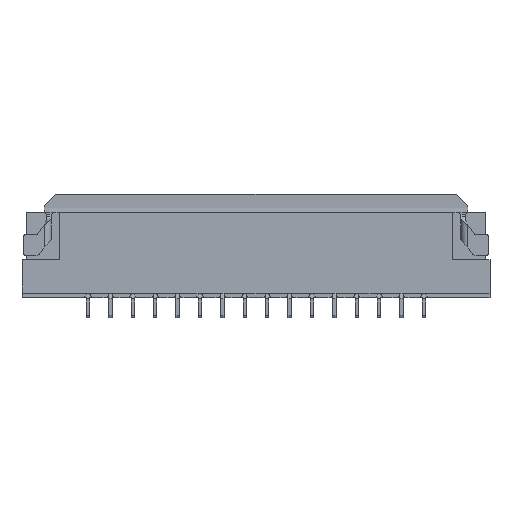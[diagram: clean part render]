
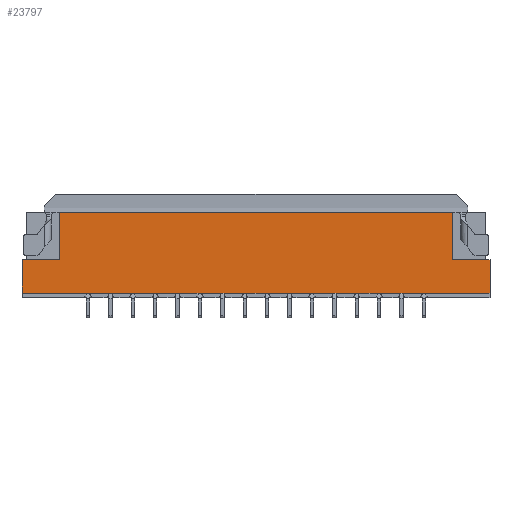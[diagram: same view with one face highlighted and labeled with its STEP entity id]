
A CAD part, front view. The second image highlights one B-rep face of the part: STEP entity #23797.
In plain terms, the highlighted planar face has unit normal (0, -1, 0).
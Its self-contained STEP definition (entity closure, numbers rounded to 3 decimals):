
#915=DIRECTION('',(-1.,0.,0.));
#916=VECTOR('',#915,17.57);
#917=CARTESIAN_POINT('',(15.285,-0.875,1.95));
#918=LINE('',#917,#916);
#1015=DIRECTION('',(1.,0.,0.));
#1016=VECTOR('',#1015,20.9);
#1017=CARTESIAN_POINT('',(-3.95,-0.875,-1.65));
#1018=LINE('',#1017,#1016);
#8200=DIRECTION('',(0.,0.,1.));
#8201=VECTOR('',#8200,1.5);
#8202=CARTESIAN_POINT('',(-3.95,-0.875,-1.65));
#8203=LINE('',#8202,#8201);
#8424=DIRECTION('',(1.,0.,0.));
#8425=VECTOR('',#8424,1.665);
#8426=CARTESIAN_POINT('',(-3.95,-0.875,-0.15));
#8427=LINE('',#8426,#8425);
#8436=DIRECTION('',(0.,0.,1.));
#8437=VECTOR('',#8436,2.1);
#8438=CARTESIAN_POINT('',(-2.285,-0.875,-0.15));
#8439=LINE('',#8438,#8437);
#8448=DIRECTION('',(0.,0.,1.));
#8449=VECTOR('',#8448,1.5);
#8450=CARTESIAN_POINT('',(16.95,-0.875,-1.65));
#8451=LINE('',#8450,#8449);
#8476=DIRECTION('',(-1.,0.,0.));
#8477=VECTOR('',#8476,1.665);
#8478=CARTESIAN_POINT('',(16.95,-0.875,-0.15));
#8479=LINE('',#8478,#8477);
#16703=DIRECTION('',(0.,0.,1.));
#16704=VECTOR('',#16703,2.1);
#16705=CARTESIAN_POINT('',(15.285,-0.875,-0.15));
#16706=LINE('',#16705,#16704);
#17007=CARTESIAN_POINT('',(15.285,-0.875,-0.15));
#17008=CARTESIAN_POINT('',(15.285,-0.875,1.95));
#17009=VERTEX_POINT('',#17007);
#17010=VERTEX_POINT('',#17008);
#17011=CARTESIAN_POINT('',(16.95,-0.875,-1.65));
#17012=CARTESIAN_POINT('',(16.95,-0.875,-0.15));
#17013=VERTEX_POINT('',#17011);
#17014=VERTEX_POINT('',#17012);
#19747=CARTESIAN_POINT('',(-2.285,-0.875,-0.15));
#19748=CARTESIAN_POINT('',(-2.285,-0.875,1.95));
#19749=VERTEX_POINT('',#19747);
#19750=VERTEX_POINT('',#19748);
#19751=CARTESIAN_POINT('',(-3.95,-0.875,-1.65));
#19752=CARTESIAN_POINT('',(-3.95,-0.875,-0.15));
#19753=VERTEX_POINT('',#19751);
#19754=VERTEX_POINT('',#19752);
#23775=CARTESIAN_POINT('',(0.,-0.875,0.15));
#23776=DIRECTION('',(0.,1.,0.));
#23777=DIRECTION('',(0.,0.,-1.));
#23778=AXIS2_PLACEMENT_3D('',#23775,#23776,#23777);
#23779=PLANE('',#23778);
#23781=ORIENTED_EDGE('',*,*,#23780,.F.);
#23783=ORIENTED_EDGE('',*,*,#23782,.T.);
#23785=ORIENTED_EDGE('',*,*,#23784,.T.);
#23787=ORIENTED_EDGE('',*,*,#23786,.T.);
#23788=ORIENTED_EDGE('',*,*,#23621,.F.);
#23790=ORIENTED_EDGE('',*,*,#23789,.F.);
#23792=ORIENTED_EDGE('',*,*,#23791,.F.);
#23794=ORIENTED_EDGE('',*,*,#23793,.F.);
#23795=EDGE_LOOP('',(#23781,#23783,#23785,#23787,#23788,#23790,#23792,#23794));
#23796=FACE_OUTER_BOUND('',#23795,.F.);
#23621=EDGE_CURVE('',#17010,#19750,#918,.T.);
#23780=EDGE_CURVE('',#19753,#17013,#1018,.T.);
#23782=EDGE_CURVE('',#19753,#19754,#8203,.T.);
#23784=EDGE_CURVE('',#19754,#19749,#8427,.T.);
#23786=EDGE_CURVE('',#19749,#19750,#8439,.T.);
#23789=EDGE_CURVE('',#17009,#17010,#16706,.T.);
#23791=EDGE_CURVE('',#17014,#17009,#8479,.T.);
#23793=EDGE_CURVE('',#17013,#17014,#8451,.T.);
#23797=ADVANCED_FACE('',(#23796),#23779,.F.);
